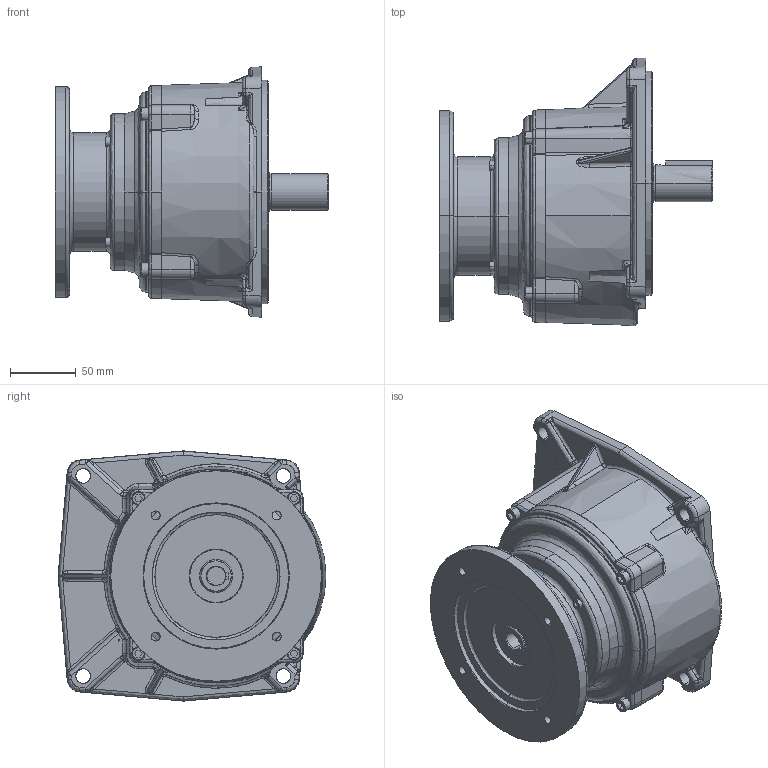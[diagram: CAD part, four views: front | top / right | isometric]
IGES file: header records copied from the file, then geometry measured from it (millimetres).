
Start section: SolidWorks IGES file using analytic representation for surfaces
Bounding box: 208 x 203.34 x 190 mm (x, y, z)
Surface area: 260911.5 mm2 (no closed solid volume)
Topology: 0 solids, 0 shells, 696 faces, 8975 edges, 8960 vertices
Faces by surface type: bspline 445, revolution 251
